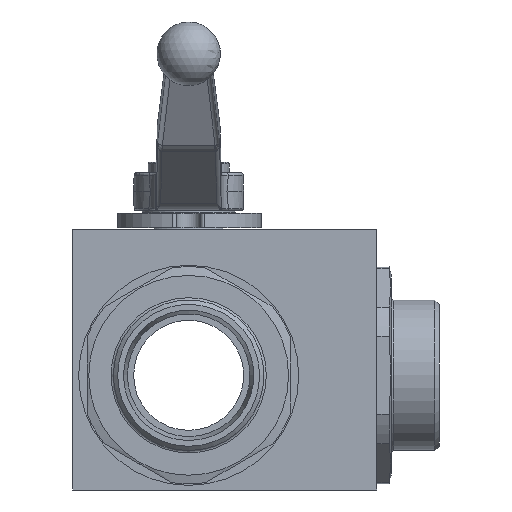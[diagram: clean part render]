
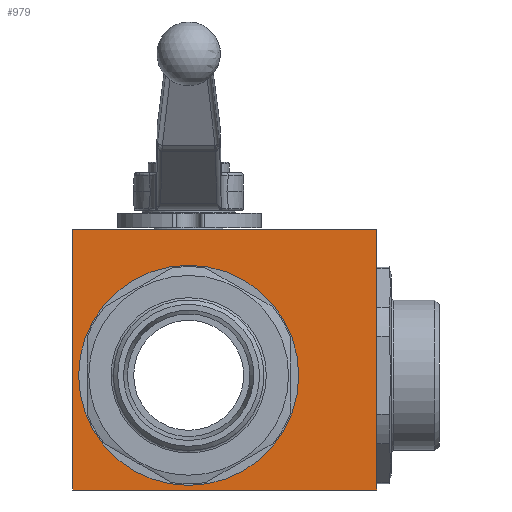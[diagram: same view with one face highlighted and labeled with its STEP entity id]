
A CAD part, front view. The second image highlights one B-rep face of the part: STEP entity #979.
In plain terms, the highlighted planar face has unit normal (0, -1, 0) as drawn and (0, 1, 0) by its records, which use the part's own axes.
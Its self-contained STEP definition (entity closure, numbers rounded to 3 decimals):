
#979 = ADVANCED_FACE( '', ( #2030, #2031 ), #2032, .F. );
#2030 = FACE_OUTER_BOUND( '', #3648, .T. );
#2031 = FACE_BOUND( '', #3649, .T. );
#2032 = PLANE( '', #3650 );
#3648 = EDGE_LOOP( '', ( #6041, #6042, #6043, #6044 ) );
#3649 = EDGE_LOOP( '', ( #6045 ) );
#3650 = AXIS2_PLACEMENT_3D( '', #6046, #6047, #6048 );
#6041 = ORIENTED_EDGE( '', *, *, #8007, .F. );
#6042 = ORIENTED_EDGE( '', *, *, #7419, .F. );
#6043 = ORIENTED_EDGE( '', *, *, #7582, .F. );
#6044 = ORIENTED_EDGE( '', *, *, #8146, .F. );
#6045 = ORIENTED_EDGE( '', *, *, #8147, .T. );
#6046 = CARTESIAN_POINT( '', ( 0., 43.5, 0. ) );
#6047 = DIRECTION( '', ( 0., -1., 0. ) );
#6048 = DIRECTION( '', ( 0., 0., -1. ) );
#7419 = EDGE_CURVE( '', #8611, #8612, #8613, .T. );
#7582 = EDGE_CURVE( '', #8894, #8611, #8895, .T. );
#8007 = EDGE_CURVE( '', #8612, #9560, #9561, .T. );
#8146 = EDGE_CURVE( '', #9560, #8894, #9745, .T. );
#8147 = EDGE_CURVE( '', #9746, #9746, #9747, .T. );
#8611 = VERTEX_POINT( '', #10493 );
#8612 = VERTEX_POINT( '', #10494 );
#8613 = LINE( '', #10495, #10496 );
#8894 = VERTEX_POINT( '', #11142 );
#8895 = LINE( '', #11143, #11144 );
#9560 = VERTEX_POINT( '', #12476 );
#9561 = LINE( '', #12477, #12478 );
#9745 = LINE( '', #13090, #13091 );
#9746 = VERTEX_POINT( '', #13092 );
#9747 = CIRCLE( '', #13093, 38. );
#10493 = CARTESIAN_POINT( '', ( 40., 43.5, 50.4 ) );
#10494 = CARTESIAN_POINT( '', ( -65., 43.5, 50.4 ) );
#10495 = CARTESIAN_POINT( '', ( 40., 43.5, 50.4 ) );
#10496 = VECTOR( '', #13963, 1000. );
#11142 = CARTESIAN_POINT( '', ( 40., 43.5, -39.6 ) );
#11143 = CARTESIAN_POINT( '', ( 40., 43.5, -39.6 ) );
#11144 = VECTOR( '', #14184, 1000. );
#12476 = CARTESIAN_POINT( '', ( -65., 43.5, -39.6 ) );
#12477 = CARTESIAN_POINT( '', ( -65., 43.5, 50.4 ) );
#12478 = VECTOR( '', #14730, 1000. );
#13090 = CARTESIAN_POINT( '', ( -65., 43.5, -39.6 ) );
#13091 = VECTOR( '', #14886, 1000. );
#13092 = CARTESIAN_POINT( '', ( 38., 43.5, 0. ) );
#13093 = AXIS2_PLACEMENT_3D( '', #14887, #14888, #14889 );
#13963 = DIRECTION( '', ( -1., 0., 0. ) );
#14184 = DIRECTION( '', ( 0., 0., 1. ) );
#14730 = DIRECTION( '', ( 0., 0., -1. ) );
#14886 = DIRECTION( '', ( 1., 0., 0. ) );
#14887 = CARTESIAN_POINT( '', ( 0., 43.5, 0. ) );
#14888 = DIRECTION( '', ( 0., -1., 0. ) );
#14889 = DIRECTION( '', ( 1., 0., 0. ) );
